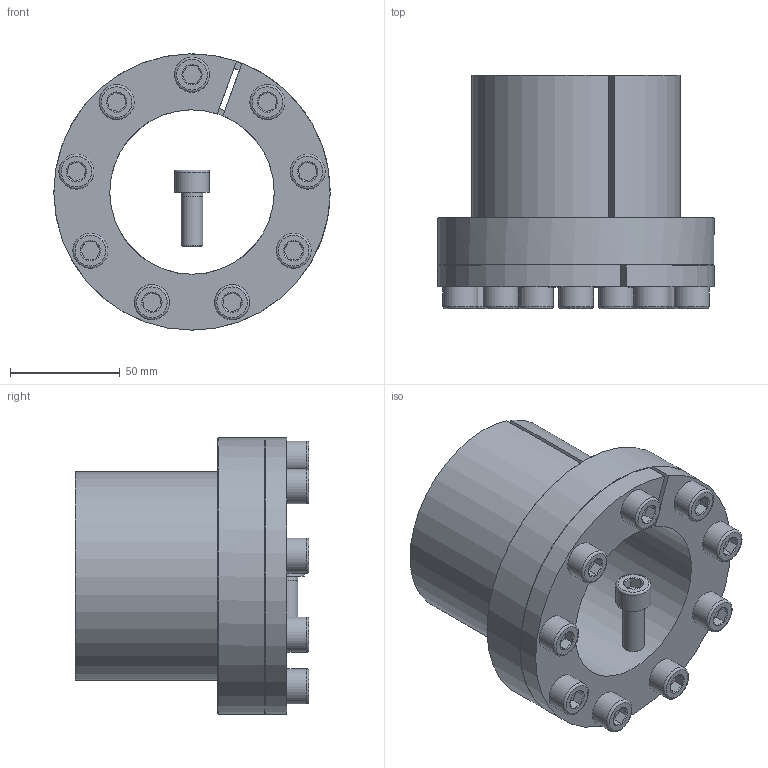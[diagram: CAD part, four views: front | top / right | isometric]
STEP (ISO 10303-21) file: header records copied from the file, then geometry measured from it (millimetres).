
FILE_DESCRIPTION( ( 'Unknown' ), '1' );
FILE_NAME( 'C:/Dokumente und Einstellungen/Sven/Desktop/homepage/cad - homepage/KBS80/KBS 80 - 75 x 95.stp', 'Unknown', ( 'Unknown' ), ( 'Unknown' ), 'XStep 1.0', 'Unknown', ' ' );
FILE_SCHEMA( ( 'automotive_design' ) );
Length unit declared in the file: millimetre
Products named in the file (11): Assem1; KBS 80 - 75 x 95; ISO EN DIN 4762 M10x25; ISO EN DIN 4762 M10x25-oa0; ISO EN DIN 4762 M10x25-oa1; ISO EN DIN 4762 M10x25-oa2; ISO EN DIN 4762 M10x25-oa3; ISO EN DIN 4762 M10x25-oa4; ISO EN DIN 4762 M10x25-oa5; ISO EN DIN 4762 M10x25-oa6; ISO EN DIN 4762 M10x25-oa7
Bounding box: 126 x 106.5 x 126 mm (x, y, z)
Volume: 866344.8 mm3; surface area: 194116.3 mm2
Topology: 20 solids, 20 shells, 512 faces, 960 edges, 558 vertices
Faces by surface type: plane 236, cone 140, cylinder 100, torus 36
Full cylindrical faces by diameter (mm): 9 x18, 10 x54, 16 x18, 75 x2, 126 x2
Entity records: 6436 total; most frequent: CARTESIAN_POINT 1338, DIRECTION 1046, ORIENTED_EDGE 762, AXIS2_PLACEMENT_3D 458, EDGE_LOOP 391, EDGE_CURVE 381, FACE_OUTER_BOUND 321, VERTEX_POINT 258
